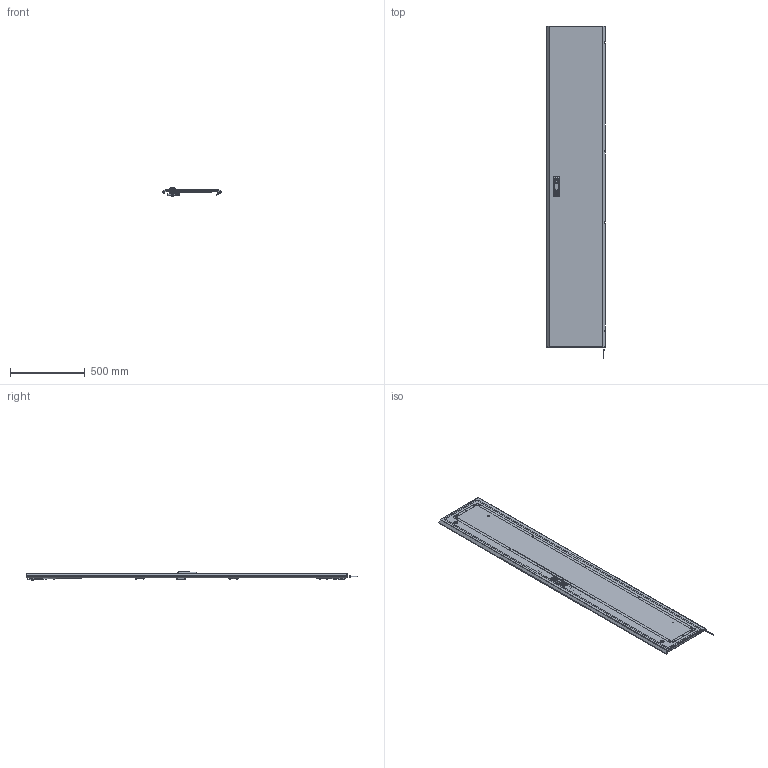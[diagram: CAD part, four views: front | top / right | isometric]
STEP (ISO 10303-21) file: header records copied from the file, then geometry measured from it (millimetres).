
FILE_DESCRIPTION (( 'STEP AP203' ), '1' );
FILE_NAME ('MA1.200.040622.30.00 AleSta-D22M400 Äâåðü ñïëîøíàÿ äëÿ øêàôîâ ALESTA ÂõØ 2200õ400.STEP', '2025-02-19T14:10:11', ( '' ), ( '' ), 'SwSTEP 2.0', 'SolidWorks 2021', '' );
FILE_SCHEMA (( 'CONFIG_CONTROL_DESIGN' ));
Length unit declared in the file: millimetre
Products named in the file (23): MA1.200.060620.31.06 赶鎀鍧_100 洵; 諘蜱齁罻 022 瀁錒瀔隮; äåðæàòåëü_êðóãëîé_òÿãèRG002-RG1010-2-i-RG1010-3-.stp; MA1.200.060620.31.01 Ïîëîòíî äâåðè ñïëîøíîé 2000õ600_2200å400; Øïèëüêà Ì6õ12_˜¯¨«ìª  Œ6å16; Îñü ïåòëè 4õ52_‚¨­â A.M4x0,5x40 ƒŽ‘’ 11644-75; MA1.200.060620.31.00 Äâåðü ñïëîøíàÿ äëÿ øêàôîâ ALESTA ÂõØ 2000õ600_2200å400; MA1.200.060620.31.03 Ðåéêà íà äâåðü ãîðèçîíòàëüíàÿ Ø = 600_˜=400; MA1.200.040622.30.00 AleSta-D22M400 Äâåðü ñïëîøíàÿ äëÿ øêàôîâ ALESTA ÂõØ 2200õ400; Øïèëüêà Ì6õ12_˜¯¨«ìª  Œ6å20; MS463-2-3(1); òÿãà_lg001-2.STEP_‚=2200; Âèíò_ðåçüáîâûäàâëèâàþùèé_Ì5õ12_DIN 7500E_Œ5å12; Ãàéêà ñàìîêîíòðÿùàÿñÿ ñ íåéëîíîâîé âñòàâêîé Ì6 DIN 985, êëàññ ïðî÷íîñòè 8, îöèíêîâàííàÿ ñòàëü_Œ5; Óïëîòíèòåëü ïàíåëè íèæíåé_  ‚=2200; MA1.200.060620.31.02 Ðåéêà íà äâåðü âåðòèêàëüíàÿ Â = 2000_‚ = 2200; Áîëò øåñòèãðàííûé Ì5õ12 DIN 933, êëàññ ïðî÷íîñòè 8.8, îöèíêîâàííàÿ ñòàëü; MA1.200.060620.31.04 需沐朦_惃％; Ãàéêà ñàìîêîíòðÿùàÿñÿ ñ íåéëîíîâîé âñòàâêîé Ì6 DIN 985, êëàññ ïðî÷íîñòè 8, îöèíêîâàííàÿ ñòàëü_Œ6; Âèíò ñàìîíàðåçàþùèé ñ ïîòàéíîé ãîëîâêîé Ì5x16 DIN 7500 M TORX, êëàññ ïðî÷íîñòè 8.8, îöèíêîâàííàÿ ñòàëü_Œ5å16; Íàâåñêà íà êîðïóñ ïîä êëåïêó; MA1.200.060620.31.05 Óãëîâîé óïîð äâåðíîé òÿãè; êðåïëåíèå_êðóãëîé_òÿãè_RG1020-1.stp
Assembly tree (84 placements, depth 3):
  MA1.200.040622.30.00 AleSta-D22M400 Äâåðü ñïëîøíàÿ äëÿ øêàôîâ ALESTA ÂõØ 2200õ400
    MA1.200.060620.31.00 Äâåðü ñïëîøíàÿ äëÿ øêàôîâ ALESTA ÂõØ 2000õ600_2200å400
      MA1.200.060620.31.01 Ïîëîòíî äâåðè ñïëîøíîé 2000õ600_2200å400
      Óïëîòíèòåëü ïàíåëè íèæíåé_  ‚=2200
      Øïèëüêà Ì6õ12_˜¯¨«ìª  Œ6å20  x16
      Øïèëüêà Ì6õ12_˜¯¨«ìª  Œ6å16  x4
    MA1.200.060620.31.03 Ðåéêà íà äâåðü ãîðèçîíòàëüíàÿ Ø = 600_˜=400  x2
    諘蜱齁罻 022 瀁錒瀔隮  x4
    MA1.200.060620.31.02 Ðåéêà íà äâåðü âåðòèêàëüíàÿ Â = 2000_‚ = 2200  x2
    äåðæàòåëü_êðóãëîé_òÿãèRG002-RG1010-2-i-RG1010-3-.stp  x2
    òÿãà_lg001-2.STEP_‚=2200  x2
    êðåïëåíèå_êðóãëîé_òÿãè_RG1020-1.stp  x2
    MS463-2-3(1)
    Ãàéêà ñàìîêîíòðÿùàÿñÿ ñ íåéëîíîâîé âñòàâêîé Ì6 DIN 985, êëàññ ïðî÷íîñòè 8, îöèíêîâàííàÿ ñòàëü_Œ6  x16
    Ãàéêà ñàìîêîíòðÿùàÿñÿ ñ íåéëîíîâîé âñòàâêîé Ì6 DIN 985, êëàññ ïðî÷íîñòè 8, îöèíêîâàííàÿ ñòàëü_Œ5  x2
    Áîëò øåñòèãðàííûé Ì5õ12 DIN 933, êëàññ ïðî÷íîñòè 8.8, îöèíêîâàííàÿ ñòàëü  x2
    MA1.200.060620.31.05 Óãëîâîé óïîð äâåðíîé òÿãè  x2
    Âèíò_ðåçüáîâûäàâëèâàþùèé_Ì5õ12_DIN 7500E_Œ5å12  x6
    Íàâåñêà íà êîðïóñ ïîä êëåïêó  x4
    Îñü ïåòëè 4õ52_‚¨­â A.M4x0,5x40 ƒŽ‘’ 11644-75  x4
    Âèíò ñàìîíàðåçàþùèé ñ ïîòàéíîé ãîëîâêîé Ì5x16 DIN 7500 M TORX, êëàññ ïðî÷íîñòè 8.8, îöèíêîâàííàÿ ñòàëü_Œ5å16  x8
    MA1.200.060620.31.04 需沐朦_惃％
    MA1.200.060620.31.06 赶鎀鍧_100 洵
Bounding box: 391.81 x 2215.65 x 57.84 mm (x, y, z)
Volume: 2233235.4 mm3; surface area: 2664637.8 mm2
Topology: 118 solids, 132 shells, 6101 faces, 15144 edges, 9228 vertices
Faces by surface type: plane 2445, cylinder 2439, bspline 661, cone 261, torus 197, sphere 98
Entity records: 139586 total; most frequent: CARTESIAN_POINT 58828, ORIENTED_EDGE 16314, DIRECTION 15337, EDGE_CURVE 8174, AXIS2_PLACEMENT_3D 5483, VERTEX_POINT 5108, LINE 4371, VECTOR 4371
